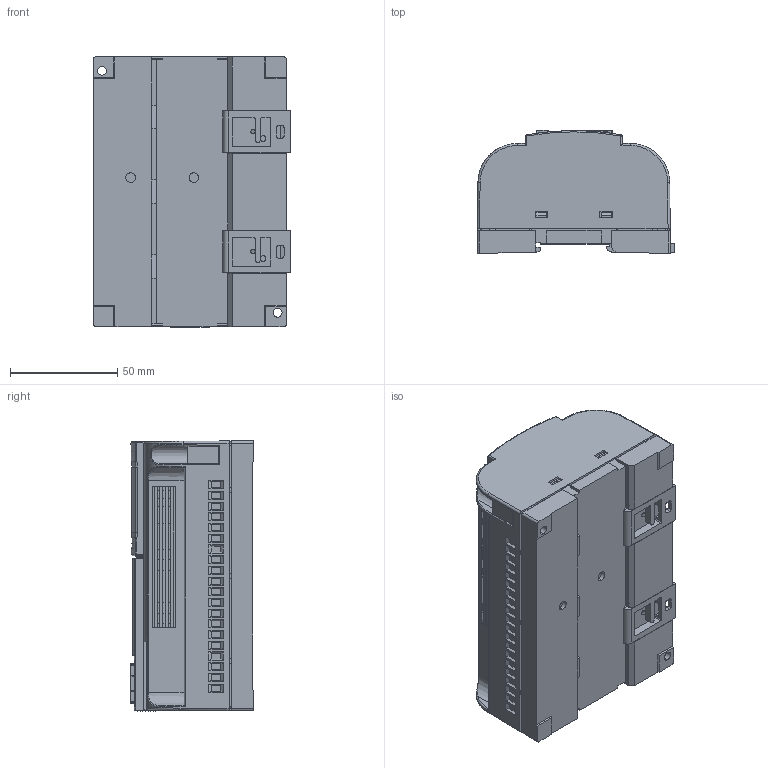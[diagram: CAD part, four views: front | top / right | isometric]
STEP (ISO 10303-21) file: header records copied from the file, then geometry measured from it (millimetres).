
FILE_DESCRIPTION (( 'STEP AP214' ), '1' );
FILE_NAME ('AF-20Mx-xx-LCD.STEP', '2021-11-19T09:26:10', ( '' ), ( '' ), 'SwSTEP 2.0', 'SolidWorks 2016', '' );
FILE_SCHEMA (( 'AUTOMOTIVE_DESIGN' ));
Length unit declared in the file: millimetre
Products named in the file (1): AF-20Mx-xx-LCD
Bounding box: 92 x 57.6 x 126.22 mm (x, y, z)
Volume: 540236.5 mm3; surface area: 102019.8 mm2
Topology: 11 solids, 37 shells, 1725 faces, 4523 edges, 2985 vertices
Faces by surface type: plane 1362, cylinder 221, cone 94, bspline 34, torus 10, sphere 4
Entity records: 73067 total; most frequent: CARTESIAN_POINT 11538, ORIENTED_EDGE 9046, DIRECTION 8232, EDGE_CURVE 4523, VECTOR 3758, LINE 3758, VERTEX_POINT 2985, AXIS2_PLACEMENT_3D 2237
